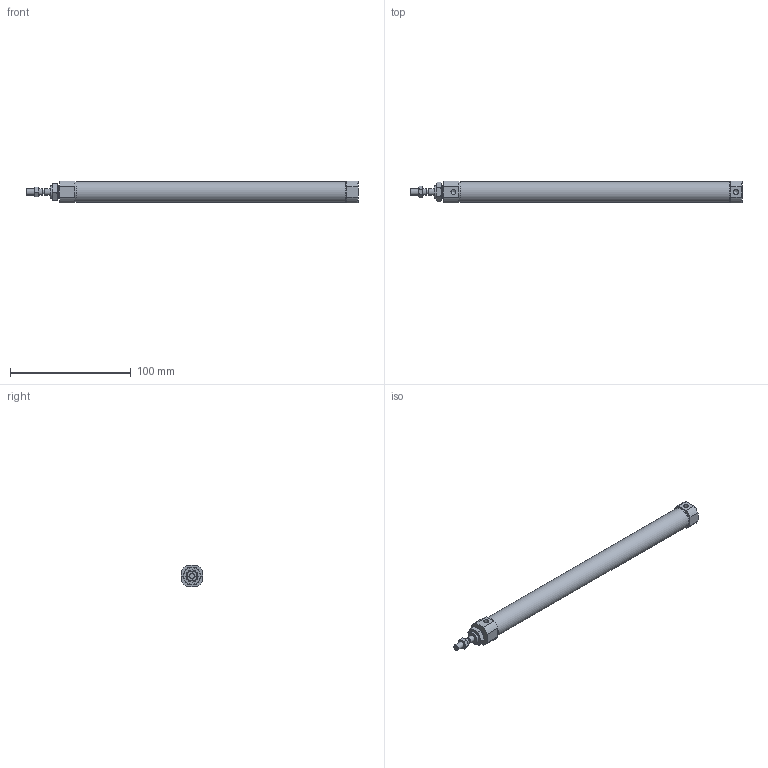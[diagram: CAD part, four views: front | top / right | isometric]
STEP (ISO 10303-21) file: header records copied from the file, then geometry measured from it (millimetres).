
FILE_DESCRIPTION((''),'2;1');
FILE_NAME('I:\3D電子目錄\氣缸\SBA\SBA\SBA16\SBA16x200.stp','2007-10-04T12:02:36',('66-2f-008'),(''),'Autodesk Inventor 11','Autodesk Inventor 11','');
FILE_SCHEMA(('AUTOMOTIVE_DESIGN { 1 0 10303 214 1 1 1 1 }'));
Length unit declared in the file: millimetre
Products named in the file (1): SBA16
Bounding box: 275 x 18 x 18 mm (x, y, z)
Volume: 59927.4 mm3; surface area: 15348.8 mm2
Topology: 1 solids, 1 shells, 88 faces, 192 edges, 117 vertices
Faces by surface type: plane 35, cone 30, cylinder 18, bspline 5
Full cylindrical faces by diameter (mm): 4 x1, 5 x3, 10 x3, 16.54 x2, 17.2 x1
Entity records: 2363 total; most frequent: CARTESIAN_POINT 637, DIRECTION 352, ORIENTED_EDGE 342, EDGE_CURVE 171, AXIS2_PLACEMENT_3D 153, EDGE_LOOP 116, VERTEX_POINT 113, FACE_OUTER_BOUND 88
